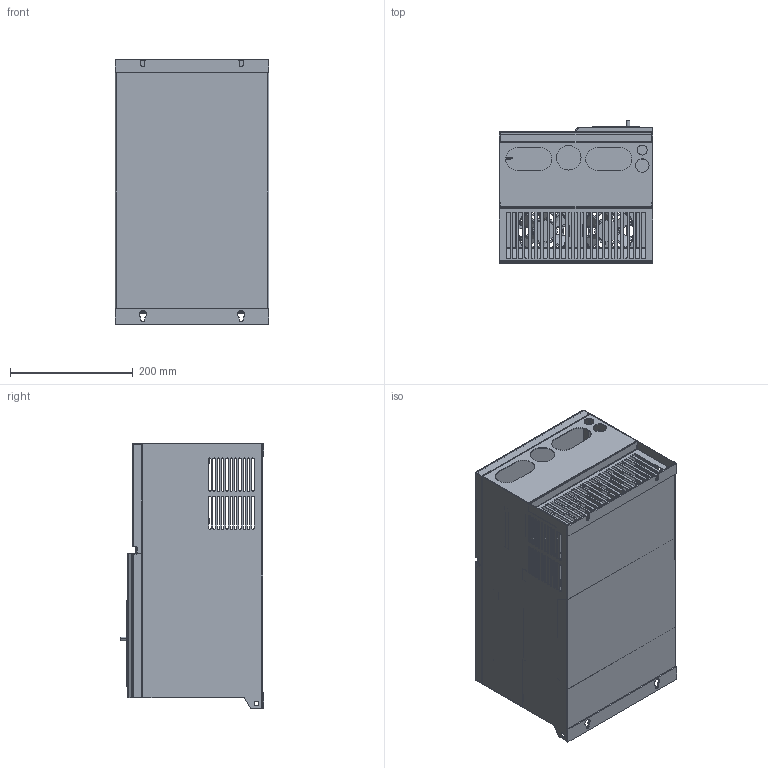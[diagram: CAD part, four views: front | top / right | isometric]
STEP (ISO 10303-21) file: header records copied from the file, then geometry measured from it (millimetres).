
FILE_DESCRIPTION (( 'STEP AP214' ), '1' );
FILE_NAME ('ﾂ-37ﾊ-ﾍ30ﾊ-380-0-0; ﾂ-45ﾊ-ﾍ37ﾊ-380-0-0.STEP', '2022-06-04T08:32:19', ( '' ), ( '' ), 'SwSTEP 2.0', 'SolidWorks 2018', '' );
FILE_SCHEMA (( 'AUTOMOTIVE_DESIGN' ));
Length unit declared in the file: millimetre
Products named in the file (43): S-M4-1_1___ _____________ _____________^E102-030-304_ASM_E102-030-201_ASM_OptiCor ﾂ-37ﾊ-ﾍ30ﾊ-380-0-0-0; OptiCor ﾂ-45ﾊ-ﾍ37ﾊ-380-0-0-0(2)_ﾂ-37ﾊ-ﾍ30ﾊ-380-0-0; ﾂ-45ﾊ-ﾍ37ﾊ-380-0-0; CDI-9600_ASM^E102-030-201_ASM_OptiCor ﾂ-37ﾊ-ﾍ30ﾊ-380-0-0-0; OptiCor ﾂ-45ﾊ-ﾍ37ﾊ-380-0-0-0(2)_ﾂ-37ﾊ-ﾍ30ﾊ-380-0-0; ﾂ-45ﾊ-ﾍ37ﾊ-380-0-0; E102-030-304___ _____________ _____________^E102-030-304_ASM_E102-030-201_ASM_OptiCor ﾂ-37ﾊ-ﾍ30ﾊ-380-0-0-0; OptiCor ﾂ-45ﾊ-ﾍ37ﾊ-380-0-0-0(2)_ﾂ-37ﾊ-ﾍ30ﾊ-380-0-0; ﾂ-45ﾊ-ﾍ37ﾊ-380-0-0; CDI-9600-MM___ _____________ _____________^CDI-9600_ASM_E102-030-201_ASM_OptiCor ﾂ-37ﾊ-ﾍ30ﾊ-380-0-0-0; OptiCor ﾂ-45ﾊ-ﾍ37ﾊ-380-0-0-0(2)_ﾂ-37ﾊ-ﾍ30ﾊ-380-0-0; ﾂ-45ﾊ-ﾍ37ﾊ-380-0-0; E102-030-303_ASM^E102-030-201_ASM_OptiCor ﾂ-37ﾊ-ﾍ30ﾊ-380-0-0-0; OptiCor ﾂ-45ﾊ-ﾍ37ﾊ-380-0-0-0(2)_ﾂ-37ﾊ-ﾍ30ﾊ-380-0-0; ﾂ-45ﾊ-ﾍ37ﾊ-380-0-0; CDI-9200___ _____________ _____________^CDI-9600_ASM_E102-030-201_ASM_OptiCor ﾂ-37ﾊ-ﾍ30ﾊ-380-0-0-0; OptiCor ﾂ-45ﾊ-ﾍ37ﾊ-380-0-0-0(2)_ﾂ-37ﾊ-ﾍ30ﾊ-380-0-0; ﾂ-45ﾊ-ﾍ37ﾊ-380-0-0; S-M4-1_1___ _____________ _____________^E102-030-303_ASM_E102-030-201_ASM_OptiCor ﾂ-37ﾊ-ﾍ30ﾊ-380-0-0-0; OptiCor ﾂ-45ﾊ-ﾍ37ﾊ-380-0-0-0(2)_ﾂ-37ﾊ-ﾍ30ﾊ-380-0-0; ﾂ-45ﾊ-ﾍ37ﾊ-380-0-0; CDI-9200HX-802___ _____________ _____________^CDI-9600_ASM_E102-030-201_ASM_OptiCor ﾂ-37ﾊ-ﾍ30ﾊ-380-0-0-0; OptiCor ﾂ-45ﾊ-ﾍ37ﾊ-380-0-0-0(2)_ﾂ-37ﾊ-ﾍ30ﾊ-380-0-0; ﾂ-45ﾊ-ﾍ37ﾊ-380-0-0; BSO-M4-17___ _____________ _____________^E102-030-303_ASM_E102-030-201_ASM_OptiCor ﾂ-37ﾊ-ﾍ30ﾊ-380-0-0-0; OptiCor ﾂ-45ﾊ-ﾍ37ﾊ-380-0-0-0(2)_ﾂ-37ﾊ-ﾍ30ﾊ-380-0-0; ﾂ-45ﾊ-ﾍ37ﾊ-380-0-0; CDI-9200HX-801___ _____________ _____________^CDI-9600_ASM_E102-030-201_ASM_OptiCor ﾂ-37ﾊ-ﾍ30ﾊ-380-0-0-0; OptiCor ﾂ-45ﾊ-ﾍ37ﾊ-380-0-0-0(2)_ﾂ-37ﾊ-ﾍ30ﾊ-380-0-0; ﾂ-45ﾊ-ﾍ37ﾊ-380-0-0; E102-030-303___ _____________ _____________^E102-030-303_ASM_E102-030-201_ASM_OptiCor ﾂ-37ﾊ-ﾍ30ﾊ-380-0-0-0; OptiCor ﾂ-45ﾊ-ﾍ37ﾊ-380-0-0-0(2)_ﾂ-37ﾊ-ﾍ30ﾊ-380-0-0; ﾂ-45ﾊ-ﾍ37ﾊ-380-0-0; CDI-9200-803_F1___ _____________ _____________^CDI-9600_ASM_E102-030-201_ASM_OptiCor ﾂ-37ﾊ-ﾍ30ﾊ-380-0-0-0; OptiCor ﾂ-45ﾊ-ﾍ37ﾊ-380-0-0-0(2)_ﾂ-37ﾊ-ﾍ30ﾊ-380-0-0; ﾂ-45ﾊ-ﾍ37ﾊ-380-0-0; E102-030-302_ASM^E102-030-201_ASM_OptiCor ﾂ-37ﾊ-ﾍ30ﾊ-380-0-0-0; OptiCor ﾂ-45ﾊ-ﾍ37ﾊ-380-0-0-0(2)_ﾂ-37ﾊ-ﾍ30ﾊ-380-0-0; ﾂ-45ﾊ-ﾍ37ﾊ-380-0-0; E102-030-310_ASM^E102-030-201_ASM_OptiCor ﾂ-37ﾊ-ﾍ30ﾊ-380-0-0-0; OptiCor ﾂ-45ﾊ-ﾍ37ﾊ-380-0-0-0(2)_ﾂ-37ﾊ-ﾍ30ﾊ-380-0-0; ﾂ-45ﾊ-ﾍ37ﾊ-380-0-0; BSO-M4-17___ _____________ _____________^E102-030-302_ASM_E102-030-201_ASM_OptiCor ﾂ-37ﾊ-ﾍ30ﾊ-380-0-0-0; OptiCor ﾂ-45ﾊ-ﾍ37ﾊ-380-0-0-0(2)_ﾂ-37ﾊ-ﾍ30ﾊ-380-0-0; ﾂ-45ﾊ-ﾍ37ﾊ-380-0-0; E102-030-310___ _____________ _____________^E102-030-310_ASM_E102-030-201_ASM_OptiCor ﾂ-37ﾊ-ﾍ30ﾊ-380-0-0-0; OptiCor ﾂ-45ﾊ-ﾍ37ﾊ-380-0-0-0(2)_ﾂ-37ﾊ-ﾍ30ﾊ-380-0-0; ﾂ-45ﾊ-ﾍ37ﾊ-380-0-0; E102-030-302___ _____________ _____________^E102-030-302_ASM_E102-030-201_ASM_OptiCor ﾂ-37ﾊ-ﾍ30ﾊ-380-0-0-0; OptiCor ﾂ-45ﾊ-ﾍ37ﾊ-380-0-0-0(2)_ﾂ-37ﾊ-ﾍ30ﾊ-380-0-0; ﾂ-45ﾊ-ﾍ37ﾊ-380-0-0; E102-030-306_ASM^E102-030-201_ASM_OptiCor ﾂ-37ﾊ-ﾍ30ﾊ-380-0-0-0; OptiCor ﾂ-45ﾊ-ﾍ37ﾊ-380-0-0-0(2)_ﾂ-37ﾊ-ﾍ30ﾊ-380-0-0; ﾂ-45ﾊ-ﾍ37ﾊ-380-0-0; OptiCor ﾂ-37ﾊ-ﾍ30ﾊ-380-0-0-0; OptiCor ﾂ-45ﾊ-ﾍ37ﾊ-380-0-0-0(2)^ﾂ-37ﾊ-ﾍ30ﾊ-380-0-0; ﾂ-45ﾊ-ﾍ37ﾊ-380-0-0; E102-030-301_ASM^E102-030-201_ASM_OptiCor ﾂ-37ﾊ-ﾍ30ﾊ-380-0-0-0; OptiCor ﾂ-45ﾊ-ﾍ37ﾊ-380-0-0-0(2)_ﾂ-37ﾊ-ﾍ30ﾊ-380-0-0; ﾂ-45ﾊ-ﾍ37ﾊ-380-0-0; S-M4-1_1___ _____________ _____________^E102-030-306_ASM_E102-030-201_ASM_OptiCor ﾂ-37ﾊ-ﾍ30ﾊ-380-0-0-0; OptiCor ﾂ-45ﾊ-ﾍ37ﾊ-380-0-0-0(2)_ﾂ-37ﾊ-ﾍ30ﾊ-380-0-0; ﾂ-45ﾊ-ﾍ37ﾊ-380-0-0; E102-030-307_ASM^OptiCor ﾂ-37ﾊ-ﾍ30ﾊ-380-0-0-0; OptiCor ﾂ-45ﾊ-ﾍ37ﾊ-380-0-0-0(2)_ﾂ-37ﾊ-ﾍ30ﾊ-380-0-0; ﾂ-45ﾊ-ﾍ37ﾊ-380-0-0; S-M4-1_1___ _____________ _____________^E102-030-301_ASM_E102-030-201_ASM_OptiCor ﾂ-37ﾊ-ﾍ30ﾊ-380-0-0-0; OptiCor ﾂ-45ﾊ-ﾍ37ﾊ-380-0-0-0(2)_ﾂ-37ﾊ-ﾍ30ﾊ-380-0-0; ﾂ-45ﾊ-ﾍ37ﾊ-380-0-0; E102-030-306___ _____________ _____________^E102-030-306_ASM_E102-030-201_ASM_OptiCor ﾂ-37ﾊ-ﾍ30ﾊ-380-0-0-0; OptiCor ﾂ-45ﾊ-ﾍ37ﾊ-380-0-0-0(2)_ﾂ-37ﾊ-ﾍ30ﾊ-380-0-0; ﾂ-45ﾊ-ﾍ37ﾊ-380-0-0; 92-FENG-SHAN-ZHAO___ _____________ _____________^E102-030-307_ASM_OptiCor ﾂ-37ﾊ-ﾍ30ﾊ-380-0-0-0; OptiCor ﾂ-45ﾊ-ﾍ37ﾊ-380-0-0-0(2)_ﾂ-37ﾊ-ﾍ30ﾊ-380-0-0; ﾂ-45ﾊ-ﾍ37ﾊ-380-0-0; E102-030-301___ _____________ _____________^E102-030-301_ASM_E102-030-201_ASM_OptiCor ﾂ-37ﾊ-ﾍ30ﾊ-380-0-0-0; OptiCor ﾂ-45ﾊ-ﾍ37ﾊ-380-0-0-0(2)_ﾂ-37ﾊ-ﾍ30ﾊ-380-0-0; ﾂ-45ﾊ-ﾍ37ﾊ-380-0-0; E102-030-312_ASM^E102-030-201_ASM_OptiCor ﾂ-37ﾊ-ﾍ30ﾊ-380-0-0-0; OptiCor ﾂ-45ﾊ-ﾍ37ﾊ-380-0-0-0(2)_ﾂ-37ﾊ-ﾍ30ﾊ-380-0-0; ﾂ-45ﾊ-ﾍ37ﾊ-380-0-0; 92X92X38___ _____________ _____________^E102-030-307_ASM_OptiCor ﾂ-37ﾊ-ﾍ30ﾊ-380-0-0-0; OptiCor ﾂ-45ﾊ-ﾍ37ﾊ-380-0-0-0(2)_ﾂ-37ﾊ-ﾍ30ﾊ-380-0-0; ﾂ-45ﾊ-ﾍ37ﾊ-380-0-0; S-M4-1_1___ _____________ _____________^E102-030-312_ASM_E102-030-201_ASM_OptiCor ﾂ-37ﾊ-ﾍ30ﾊ-380-0-0-0; OptiCor ﾂ-45ﾊ-ﾍ37ﾊ-380-0-0-0(2)_ﾂ-37ﾊ-ﾍ30ﾊ-380-0-0; ﾂ-45ﾊ-ﾍ37ﾊ-380-0-0; S-M4-1_1___ _____________ _____________^E102-030-307_ASM_OptiCor ﾂ-37ﾊ-ﾍ30ﾊ-380-0-0-0; OptiCor ﾂ-45ﾊ-ﾍ37ﾊ-380-0-0-0(2)_ﾂ-37ﾊ-ﾍ30ﾊ-380-0-0; ﾂ-45ﾊ-ﾍ37ﾊ-380-0-0; ﾂ-37ﾊ-ﾍ30ﾊ-380-0-0; ﾂ-45ﾊ-ﾍ37ﾊ-380-0-0; E102-030-312___ _____________ _____________^E102-030-312_ASM_E102-030-201_ASM_OptiCor ﾂ-37ﾊ-ﾍ30ﾊ-380-0-0-0; OptiCor ﾂ-45ﾊ-ﾍ37ﾊ-380-0-0-0(2)_ﾂ-37ﾊ-ﾍ30ﾊ-380-0-0; ﾂ-45ﾊ-ﾍ37ﾊ-380-0-0; E102-030-307___ _____________ _____________^E102-030-307_ASM_OptiCor ﾂ-37ﾊ-ﾍ30ﾊ-380-0-0-0; OptiCor ﾂ-45ﾊ-ﾍ37ﾊ-380-0-0-0(2)_ﾂ-37ﾊ-ﾍ30ﾊ-380-0-0; ﾂ-45ﾊ-ﾍ37ﾊ-380-0-0; E102-030-308_ASM^E102-030-201_ASM_OptiCor ﾂ-37ﾊ-ﾍ30ﾊ-380-0-0-0; OptiCor ﾂ-45ﾊ-ﾍ37ﾊ-380-0-0-0(2)_ﾂ-37ﾊ-ﾍ30ﾊ-380-0-0; ﾂ-45ﾊ-ﾍ37ﾊ-380-0-0; E102-030-201_ASM^OptiCor ﾂ-37ﾊ-ﾍ30ﾊ-380-0-0-0; OptiCor ﾂ-45ﾊ-ﾍ37ﾊ-380-0-0-0(2)_ﾂ-37ﾊ-ﾍ30ﾊ-380-0-0; ﾂ-45ﾊ-ﾍ37ﾊ-380-0-0; E102-030-308___ _____________ _____________^E102-030-308_ASM_E102-030-201_ASM_OptiCor ﾂ-37ﾊ-ﾍ30ﾊ-380-0-0-0; OptiCor ﾂ-45ﾊ-ﾍ37ﾊ-380-0-0-0(2)_ﾂ-37ﾊ-ﾍ30ﾊ-380-0-0; ﾂ-45ﾊ-ﾍ37ﾊ-380-0-0; E102-030-311___ _____________ _____________^E102-030-201_ASM_OptiCor ﾂ-37ﾊ-ﾍ30ﾊ-380-0-0-0; OptiCor ﾂ-45ﾊ-ﾍ37ﾊ-380-0-0-0(2)_ﾂ-37ﾊ-ﾍ30ﾊ-380-0-0; ﾂ-45ﾊ-ﾍ37ﾊ-380-0-0; E102-030-305_ASM^E102-030-201_ASM_OptiCor ﾂ-37ﾊ-ﾍ30ﾊ-380-0-0-0; OptiCor ﾂ-45ﾊ-ﾍ37ﾊ-380-0-0-0(2)_ﾂ-37ﾊ-ﾍ30ﾊ-380-0-0; ﾂ-45ﾊ-ﾍ37ﾊ-380-0-0; E102-030-315___ _____________ _____________^E102-030-201_ASM_OptiCor ﾂ-37ﾊ-ﾍ30ﾊ-380-0-0-0; OptiCor ﾂ-45ﾊ-ﾍ37ﾊ-380-0-0-0(2)_ﾂ-37ﾊ-ﾍ30ﾊ-380-0-0; ﾂ-45ﾊ-ﾍ37ﾊ-380-0-0; E102-030-305___ _____________ _____________^E102-030-305_ASM_E102-030-201_ASM_OptiCor ﾂ-37ﾊ-ﾍ30ﾊ-380-0-0-0; OptiCor ﾂ-45ﾊ-ﾍ37ﾊ-380-0-0-0(2)_ﾂ-37ﾊ-ﾍ30ﾊ-380-0-0; ﾂ-45ﾊ-ﾍ37ﾊ-380-0-0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
Assembly tree (70 placements, depth 5):
  ﾂ-37ﾊ-ﾍ30ﾊ-380-0-0; ﾂ-45ﾊ-ﾍ37ﾊ-380-0-0
    OptiCor ﾂ-37ﾊ-ﾍ30ﾊ-380-0-0-0; OptiCor ﾂ-45ﾊ-ﾍ37ﾊ-380-0-0-0(2)^ﾂ-37ﾊ-ﾍ30ﾊ-380-0-0; ﾂ-45ﾊ-ﾍ37ﾊ-380-0-0
      E102-030-201_ASM^OptiCor ﾂ-37ﾊ-ﾍ30ﾊ-380-0-0-0; OptiCor ﾂ-45ﾊ-ﾍ37ﾊ-380-0-0-0(2)_ﾂ-37ﾊ-ﾍ30ﾊ-380-0-0; ﾂ-45ﾊ-ﾍ37ﾊ-380-0-0
        E102-030-301_ASM^E102-030-201_ASM_OptiCor ﾂ-37ﾊ-ﾍ30ﾊ-380-0-0-0; OptiCor ﾂ-45ﾊ-ﾍ37ﾊ-380-0-0-0(2)_ﾂ-37ﾊ-ﾍ30ﾊ-380-0-0; ﾂ-45ﾊ-ﾍ37ﾊ-380-0-0
          E102-030-301___ _____________ _____________^E102-030-301_ASM_E102-030-201_ASM_OptiCor ﾂ-37ﾊ-ﾍ30ﾊ-380-0-0-0; OptiCor ﾂ-45ﾊ-ﾍ37ﾊ-380-0-0-0(2)_ﾂ-37ﾊ-ﾍ30ﾊ-380-0-0; ﾂ-45ﾊ-ﾍ37ﾊ-380-0-0
          S-M4-1_1___ _____________ _____________^E102-030-301_ASM_E102-030-201_ASM_OptiCor ﾂ-37ﾊ-ﾍ30ﾊ-380-0-0-0; OptiCor ﾂ-45ﾊ-ﾍ37ﾊ-380-0-0-0(2)_ﾂ-37ﾊ-ﾍ30ﾊ-380-0-0; ﾂ-45ﾊ-ﾍ37ﾊ-380-0-0  x2
        E102-030-302_ASM^E102-030-201_ASM_OptiCor ﾂ-37ﾊ-ﾍ30ﾊ-380-0-0-0; OptiCor ﾂ-45ﾊ-ﾍ37ﾊ-380-0-0-0(2)_ﾂ-37ﾊ-ﾍ30ﾊ-380-0-0; ﾂ-45ﾊ-ﾍ37ﾊ-380-0-0
          E102-030-302___ _____________ _____________^E102-030-302_ASM_E102-030-201_ASM_OptiCor ﾂ-37ﾊ-ﾍ30ﾊ-380-0-0-0; OptiCor ﾂ-45ﾊ-ﾍ37ﾊ-380-0-0-0(2)_ﾂ-37ﾊ-ﾍ30ﾊ-380-0-0; ﾂ-45ﾊ-ﾍ37ﾊ-380-0-0
          BSO-M4-17___ _____________ _____________^E102-030-302_ASM_E102-030-201_ASM_OptiCor ﾂ-37ﾊ-ﾍ30ﾊ-380-0-0-0; OptiCor ﾂ-45ﾊ-ﾍ37ﾊ-380-0-0-0(2)_ﾂ-37ﾊ-ﾍ30ﾊ-380-0-0; ﾂ-45ﾊ-ﾍ37ﾊ-380-0-0  x2
        E102-030-303_ASM^E102-030-201_ASM_OptiCor ﾂ-37ﾊ-ﾍ30ﾊ-380-0-0-0; OptiCor ﾂ-45ﾊ-ﾍ37ﾊ-380-0-0-0(2)_ﾂ-37ﾊ-ﾍ30ﾊ-380-0-0; ﾂ-45ﾊ-ﾍ37ﾊ-380-0-0
          E102-030-303___ _____________ _____________^E102-030-303_ASM_E102-030-201_ASM_OptiCor ﾂ-37ﾊ-ﾍ30ﾊ-380-0-0-0; OptiCor ﾂ-45ﾊ-ﾍ37ﾊ-380-0-0-0(2)_ﾂ-37ﾊ-ﾍ30ﾊ-380-0-0; ﾂ-45ﾊ-ﾍ37ﾊ-380-0-0
          BSO-M4-17___ _____________ _____________^E102-030-303_ASM_E102-030-201_ASM_OptiCor ﾂ-37ﾊ-ﾍ30ﾊ-380-0-0-0; OptiCor ﾂ-45ﾊ-ﾍ37ﾊ-380-0-0-0(2)_ﾂ-37ﾊ-ﾍ30ﾊ-380-0-0; ﾂ-45ﾊ-ﾍ37ﾊ-380-0-0  x4
          S-M4-1_1___ _____________ _____________^E102-030-303_ASM_E102-030-201_ASM_OptiCor ﾂ-37ﾊ-ﾍ30ﾊ-380-0-0-0; OptiCor ﾂ-45ﾊ-ﾍ37ﾊ-380-0-0-0(2)_ﾂ-37ﾊ-ﾍ30ﾊ-380-0-0; ﾂ-45ﾊ-ﾍ37ﾊ-380-0-0  x3
        E102-030-304_ASM^E102-030-201_ASM_OptiCor ﾂ-37ﾊ-ﾍ30ﾊ-380-0-0-0; OptiCor ﾂ-45ﾊ-ﾍ37ﾊ-380-0-0-0(2)_ﾂ-37ﾊ-ﾍ30ﾊ-380-0-0; ﾂ-45ﾊ-ﾍ37ﾊ-380-0-0  x2
          E102-030-304___ _____________ _____________^E102-030-304_ASM_E102-030-201_ASM_OptiCor ﾂ-37ﾊ-ﾍ30ﾊ-380-0-0-0; OptiCor ﾂ-45ﾊ-ﾍ37ﾊ-380-0-0-0(2)_ﾂ-37ﾊ-ﾍ30ﾊ-380-0-0; ﾂ-45ﾊ-ﾍ37ﾊ-380-0-0
          S-M4-1_1___ _____________ _____________^E102-030-304_ASM_E102-030-201_ASM_OptiCor ﾂ-37ﾊ-ﾍ30ﾊ-380-0-0-0; OptiCor ﾂ-45ﾊ-ﾍ37ﾊ-380-0-0-0(2)_ﾂ-37ﾊ-ﾍ30ﾊ-380-0-0; ﾂ-45ﾊ-ﾍ37ﾊ-380-0-0
        E102-030-305_ASM^E102-030-201_ASM_OptiCor ﾂ-37ﾊ-ﾍ30ﾊ-380-0-0-0; OptiCor ﾂ-45ﾊ-ﾍ37ﾊ-380-0-0-0(2)_ﾂ-37ﾊ-ﾍ30ﾊ-380-0-0; ﾂ-45ﾊ-ﾍ37ﾊ-380-0-0  x4
          E102-030-305___ _____________ _____________^E102-030-305_ASM_E102-030-201_ASM_OptiCor ﾂ-37ﾊ-ﾍ30ﾊ-380-0-0-0; OptiCor ﾂ-45ﾊ-ﾍ37ﾊ-380-0-0-0(2)_ﾂ-37ﾊ-ﾍ30ﾊ-380-0-0; ﾂ-45ﾊ-ﾍ37ﾊ-380-0-0
        E102-030-308_ASM^E102-030-201_ASM_OptiCor ﾂ-37ﾊ-ﾍ30ﾊ-380-0-0-0; OptiCor ﾂ-45ﾊ-ﾍ37ﾊ-380-0-0-0(2)_ﾂ-37ﾊ-ﾍ30ﾊ-380-0-0; ﾂ-45ﾊ-ﾍ37ﾊ-380-0-0
          E102-030-308___ _____________ _____________^E102-030-308_ASM_E102-030-201_ASM_OptiCor ﾂ-37ﾊ-ﾍ30ﾊ-380-0-0-0; OptiCor ﾂ-45ﾊ-ﾍ37ﾊ-380-0-0-0(2)_ﾂ-37ﾊ-ﾍ30ﾊ-380-0-0; ﾂ-45ﾊ-ﾍ37ﾊ-380-0-0
        E102-030-312_ASM^E102-030-201_ASM_OptiCor ﾂ-37ﾊ-ﾍ30ﾊ-380-0-0-0; OptiCor ﾂ-45ﾊ-ﾍ37ﾊ-380-0-0-0(2)_ﾂ-37ﾊ-ﾍ30ﾊ-380-0-0; ﾂ-45ﾊ-ﾍ37ﾊ-380-0-0  x2
          E102-030-312___ _____________ _____________^E102-030-312_ASM_E102-030-201_ASM_OptiCor ﾂ-37ﾊ-ﾍ30ﾊ-380-0-0-0; OptiCor ﾂ-45ﾊ-ﾍ37ﾊ-380-0-0-0(2)_ﾂ-37ﾊ-ﾍ30ﾊ-380-0-0; ﾂ-45ﾊ-ﾍ37ﾊ-380-0-0
          S-M4-1_1___ _____________ _____________^E102-030-312_ASM_E102-030-201_ASM_OptiCor ﾂ-37ﾊ-ﾍ30ﾊ-380-0-0-0; OptiCor ﾂ-45ﾊ-ﾍ37ﾊ-380-0-0-0(2)_ﾂ-37ﾊ-ﾍ30ﾊ-380-0-0; ﾂ-45ﾊ-ﾍ37ﾊ-380-0-0
        E102-030-306_ASM^E102-030-201_ASM_OptiCor ﾂ-37ﾊ-ﾍ30ﾊ-380-0-0-0; OptiCor ﾂ-45ﾊ-ﾍ37ﾊ-380-0-0-0(2)_ﾂ-37ﾊ-ﾍ30ﾊ-380-0-0; ﾂ-45ﾊ-ﾍ37ﾊ-380-0-0
          E102-030-306___ _____________ _____________^E102-030-306_ASM_E102-030-201_ASM_OptiCor ﾂ-37ﾊ-ﾍ30ﾊ-380-0-0-0; OptiCor ﾂ-45ﾊ-ﾍ37ﾊ-380-0-0-0(2)_ﾂ-37ﾊ-ﾍ30ﾊ-380-0-0; ﾂ-45ﾊ-ﾍ37ﾊ-380-0-0
          S-M4-1_1___ _____________ _____________^E102-030-306_ASM_E102-030-201_ASM_OptiCor ﾂ-37ﾊ-ﾍ30ﾊ-380-0-0-0; OptiCor ﾂ-45ﾊ-ﾍ37ﾊ-380-0-0-0(2)_ﾂ-37ﾊ-ﾍ30ﾊ-380-0-0; ﾂ-45ﾊ-ﾍ37ﾊ-380-0-0  x2
        E102-030-310_ASM^E102-030-201_ASM_OptiCor ﾂ-37ﾊ-ﾍ30ﾊ-380-0-0-0; OptiCor ﾂ-45ﾊ-ﾍ37ﾊ-380-0-0-0(2)_ﾂ-37ﾊ-ﾍ30ﾊ-380-0-0; ﾂ-45ﾊ-ﾍ37ﾊ-380-0-0
          E102-030-310___ _____________ _____________^E102-030-310_ASM_E102-030-201_ASM_OptiCor ﾂ-37ﾊ-ﾍ30ﾊ-380-0-0-0; OptiCor ﾂ-45ﾊ-ﾍ37ﾊ-380-0-0-0(2)_ﾂ-37ﾊ-ﾍ30ﾊ-380-0-0; ﾂ-45ﾊ-ﾍ37ﾊ-380-0-0
        CDI-9600_ASM^E102-030-201_ASM_OptiCor ﾂ-37ﾊ-ﾍ30ﾊ-380-0-0-0; OptiCor ﾂ-45ﾊ-ﾍ37ﾊ-380-0-0-0(2)_ﾂ-37ﾊ-ﾍ30ﾊ-380-0-0; ﾂ-45ﾊ-ﾍ37ﾊ-380-0-0
          CDI-9200-803_F1___ _____________ _____________^CDI-9600_ASM_E102-030-201_ASM_OptiCor ﾂ-37ﾊ-ﾍ30ﾊ-380-0-0-0; OptiCor ﾂ-45ﾊ-ﾍ37ﾊ-380-0-0-0(2)_ﾂ-37ﾊ-ﾍ30ﾊ-380-0-0; ﾂ-45ﾊ-ﾍ37ﾊ-380-0-0
          CDI-9200HX-801___ _____________ _____________^CDI-9600_ASM_E102-030-201_ASM_OptiCor ﾂ-37ﾊ-ﾍ30ﾊ-380-0-0-0; OptiCor ﾂ-45ﾊ-ﾍ37ﾊ-380-0-0-0(2)_ﾂ-37ﾊ-ﾍ30ﾊ-380-0-0; ﾂ-45ﾊ-ﾍ37ﾊ-380-0-0
          CDI-9200HX-802___ _____________ _____________^CDI-9600_ASM_E102-030-201_ASM_OptiCor ﾂ-37ﾊ-ﾍ30ﾊ-380-0-0-0; OptiCor ﾂ-45ﾊ-ﾍ37ﾊ-380-0-0-0(2)_ﾂ-37ﾊ-ﾍ30ﾊ-380-0-0; ﾂ-45ﾊ-ﾍ37ﾊ-380-0-0
          CDI-9200___ _____________ _____________^CDI-9600_ASM_E102-030-201_ASM_OptiCor ﾂ-37ﾊ-ﾍ30ﾊ-380-0-0-0; OptiCor ﾂ-45ﾊ-ﾍ37ﾊ-380-0-0-0(2)_ﾂ-37ﾊ-ﾍ30ﾊ-380-0-0; ﾂ-45ﾊ-ﾍ37ﾊ-380-0-0
          CDI-9600-MM___ _____________ _____________^CDI-9600_ASM_E102-030-201_ASM_OptiCor ﾂ-37ﾊ-ﾍ30ﾊ-380-0-0-0; OptiCor ﾂ-45ﾊ-ﾍ37ﾊ-380-0-0-0(2)_ﾂ-37ﾊ-ﾍ30ﾊ-380-0-0; ﾂ-45ﾊ-ﾍ37ﾊ-380-0-0
        E102-030-314___ _____________ _____________^E102-030-201_ASM_OptiCor ﾂ-37ﾊ-ﾍ30ﾊ-380-0-0-0; OptiCor ﾂ-45ﾊ-ﾍ37ﾊ-380-0-0-0(2)_ﾂ-37ﾊ-ﾍ30ﾊ-380-0-0; ﾂ-45ﾊ-ﾍ37ﾊ-380-0-0  x2
        E102-030-316___ _____________ _____________^E102-030-201_ASM_OptiCor ﾂ-37ﾊ-ﾍ30ﾊ-380-0-0-0; OptiCor ﾂ-45ﾊ-ﾍ37ﾊ-380-0-0-0(2)_ﾂ-37ﾊ-ﾍ30ﾊ-380-0-0; ﾂ-45ﾊ-ﾍ37ﾊ-380-0-0
        E102-030-315___ _____________ _____________^E102-030-201_ASM_OptiCor ﾂ-37ﾊ-ﾍ30ﾊ-380-0-0-0; OptiCor ﾂ-45ﾊ-ﾍ37ﾊ-380-0-0-0(2)_ﾂ-37ﾊ-ﾍ30ﾊ-380-0-0; ﾂ-45ﾊ-ﾍ37ﾊ-380-0-0
        E102-030-311___ _____________ _____________^E102-030-201_ASM_OptiCor ﾂ-37ﾊ-ﾍ30ﾊ-380-0-0-0; OptiCor ﾂ-45ﾊ-ﾍ37ﾊ-380-0-0-0(2)_ﾂ-37ﾊ-ﾍ30ﾊ-380-0-0; ﾂ-45ﾊ-ﾍ37ﾊ-380-0-0
      E102-030-307_ASM^OptiCor ﾂ-37ﾊ-ﾍ30ﾊ-380-0-0-0; OptiCor ﾂ-45ﾊ-ﾍ37ﾊ-380-0-0-0(2)_ﾂ-37ﾊ-ﾍ30ﾊ-380-0-0; ﾂ-45ﾊ-ﾍ37ﾊ-380-0-0
        E102-030-307___ _____________ _____________^E102-030-307_ASM_OptiCor ﾂ-37ﾊ-ﾍ30ﾊ-380-0-0-0; OptiCor ﾂ-45ﾊ-ﾍ37ﾊ-380-0-0-0(2)_ﾂ-37ﾊ-ﾍ30ﾊ-380-0-0; ﾂ-45ﾊ-ﾍ37ﾊ-380-0-0
        S-M4-1_1___ _____________ _____________^E102-030-307_ASM_OptiCor ﾂ-37ﾊ-ﾍ30ﾊ-380-0-0-0; OptiCor ﾂ-45ﾊ-ﾍ37ﾊ-380-0-0-0(2)_ﾂ-37ﾊ-ﾍ30ﾊ-380-0-0; ﾂ-45ﾊ-ﾍ37ﾊ-380-0-0  x11
        92X92X38___ _____________ _____________^E102-030-307_ASM_OptiCor ﾂ-37ﾊ-ﾍ30ﾊ-380-0-0-0; OptiCor ﾂ-45ﾊ-ﾍ37ﾊ-380-0-0-0(2)_ﾂ-37ﾊ-ﾍ30ﾊ-380-0-0; ﾂ-45ﾊ-ﾍ37ﾊ-380-0-0  x2
        92-FENG-SHAN-ZHAO___ _____________ _____________^E102-030-307_ASM_OptiCor ﾂ-37ﾊ-ﾍ30ﾊ-380-0-0-0; OptiCor ﾂ-45ﾊ-ﾍ37ﾊ-380-0-0-0(2)_ﾂ-37ﾊ-ﾍ30ﾊ-380-0-0; ﾂ-45ﾊ-ﾍ37ﾊ-380-0-0  x2
Bounding box: 250 x 234 x 430 mm (x, y, z)
Volume: 1026880.9 mm3; surface area: 1493491.3 mm2
Topology: 70 solids, 71 shells, 2940 faces, 8029 edges, 5227 vertices
Faces by surface type: plane 1686, cylinder 1042, bspline 187, cone 19, torus 6
Entity records: 86398 total; most frequent: CARTESIAN_POINT 22105, ORIENTED_EDGE 13358, DIRECTION 12505, EDGE_CURVE 6703, LINE 4683, VECTOR 4683, VERTEX_POINT 4401, AXIS2_PLACEMENT_3D 3911
